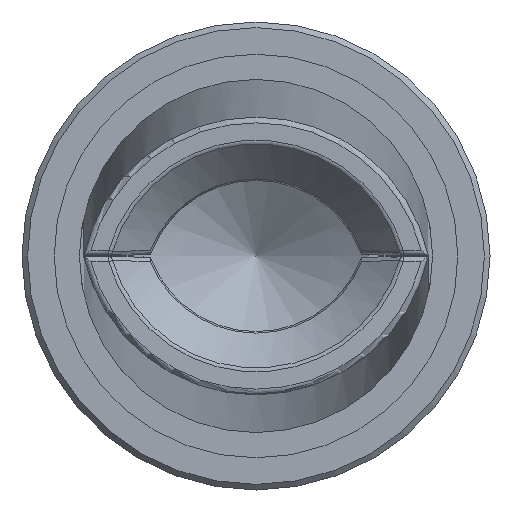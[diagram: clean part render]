
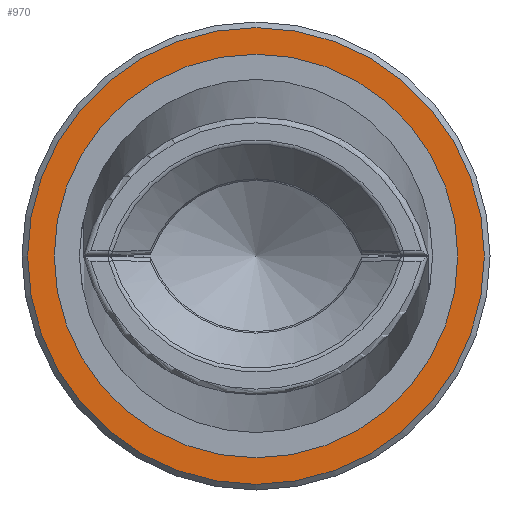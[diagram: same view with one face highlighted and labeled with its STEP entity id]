
A CAD part, left-side view. The second image highlights one B-rep face of the part: STEP entity #970.
In plain terms, the highlighted planar face has unit normal (-1, 0, 0).
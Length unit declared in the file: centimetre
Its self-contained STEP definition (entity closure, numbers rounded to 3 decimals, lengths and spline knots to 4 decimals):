
#161=PLANE('',#1051);
#277=VERTEX_POINT('',#1458);
#280=VERTEX_POINT('',#1466);
#358=CIRCLE('',#1047,0.1035);
#361=CIRCLE('',#1052,0.08);
#417=EDGE_CURVE('',#277,#277,#358,.T.);
#420=EDGE_CURVE('',#280,#280,#361,.T.);
#555=ORIENTED_EDGE('',*,*,#420,.T.);
#556=ORIENTED_EDGE('',*,*,#417,.F.);
#804=EDGE_LOOP('',(#555));
#805=EDGE_LOOP('',(#556));
#891=FACE_BOUND('',#804,.T.);
#892=FACE_BOUND('',#805,.T.);
#970=ADVANCED_FACE('',(#891,#892),#161,.F.);
#1047=AXIS2_PLACEMENT_3D('',#1457,#1182,#1183);
#1051=AXIS2_PLACEMENT_3D('',#1464,#1190,$);
#1052=AXIS2_PLACEMENT_3D('',#1465,#1191,#1192);
#1182=DIRECTION('',(1.,0.,0.));
#1183=DIRECTION('',(0.,0.,0.104));
#1190=DIRECTION('',(1.,0.,0.));
#1191=DIRECTION('',(1.,0.,0.));
#1192=DIRECTION('',(0.,0.,-0.08));
#1457=CARTESIAN_POINT('',(0.7214,0.,0.));
#1458=CARTESIAN_POINT('',(0.7214,0.,-0.1035));
#1464=CARTESIAN_POINT('',(0.7214,0.,0.));
#1465=CARTESIAN_POINT('',(0.7214,0.,0.));
#1466=CARTESIAN_POINT('',(0.7214,0.,-0.08));
